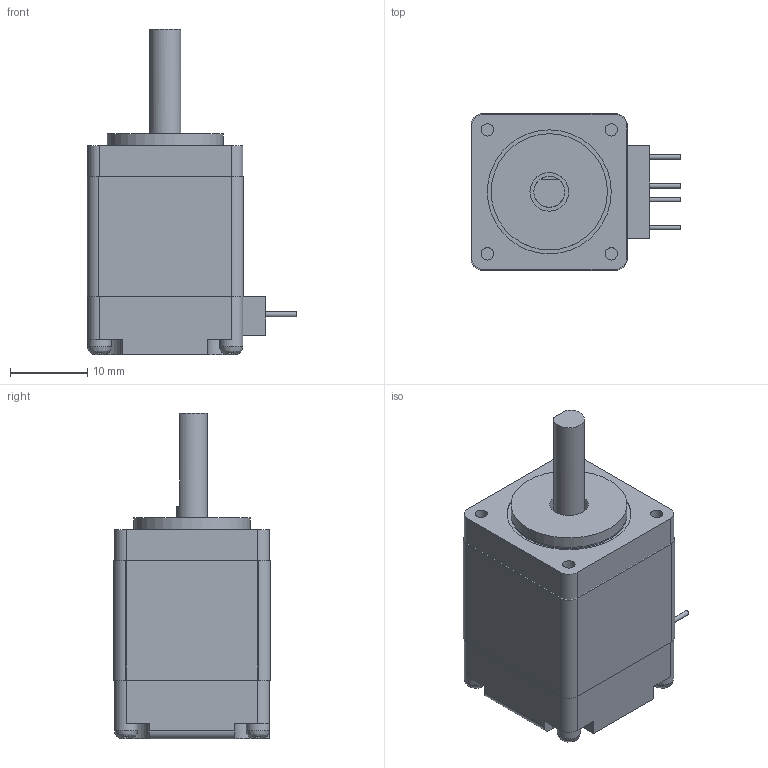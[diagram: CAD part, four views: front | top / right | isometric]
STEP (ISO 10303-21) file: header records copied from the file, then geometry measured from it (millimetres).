
FILE_DESCRIPTION(/* description */ (''),/* implementation_level */ '2;1');
FILE_NAME(/* name */ '20MMbujdianji.stp',/* time_stamp */ '2018-08-08T13:42:30+08:00',/* author */ (''),/* organization */ (''),/* preprocessor_version */ 'ST-DEVELOPER v11',/* originating_system */ 'SIEMENS UGS NX 6.0',/* authorisation */ '');
FILE_SCHEMA (('CONFIG_CONTROL_DESIGN'));
Length unit declared in the file: millimetre
Products named in the file (1): 20MMbujdianji
Bounding box: 27.1 x 20.2 x 42 mm (x, y, z)
Volume: 17354 mm3; surface area: 6293.8 mm2
Topology: 8 solids, 8 shells, 190 faces, 476 edges, 315 vertices
Faces by surface type: plane 148, cylinder 33, cone 5, bspline 4
Full cylindrical faces by diameter (mm): 0.576 x1, 0.592 x1, 0.594 x1, 0.665 x1, 1.6 x4, 3 x3, 3.014 x1, 4 x3, 5 x3, 15 x2, 16 x1
Entity records: 5801 total; most frequent: CARTESIAN_POINT 1414, ORIENTED_EDGE 858, DIRECTION 843, EDGE_CURVE 429, VERTEX_POINT 302, LINE 293, VECTOR 293, AXIS2_PLACEMENT_3D 275
